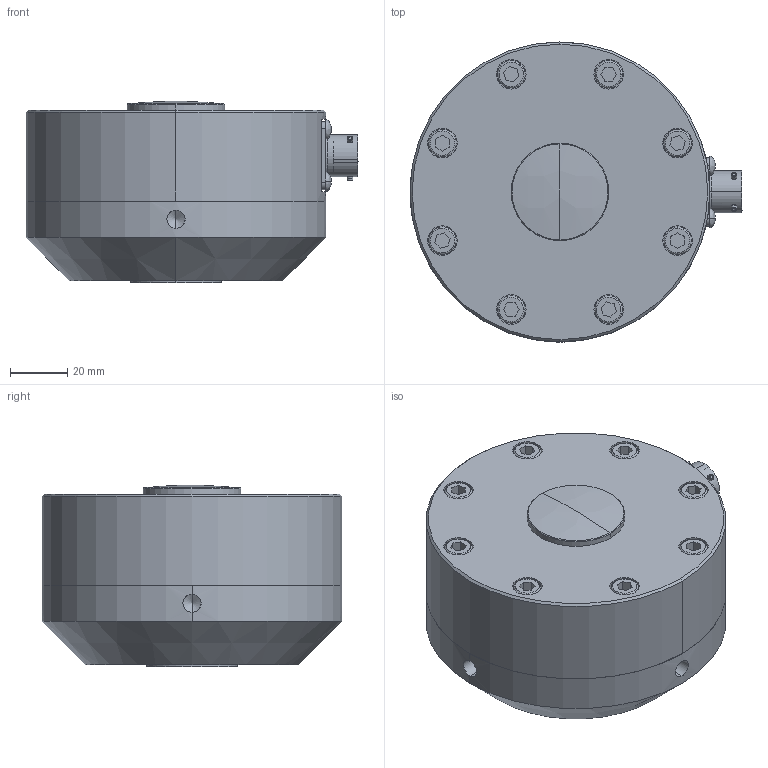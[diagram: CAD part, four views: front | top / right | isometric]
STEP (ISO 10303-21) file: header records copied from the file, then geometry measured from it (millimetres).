
FILE_DESCRIPTION (( 'STEP AP203' ), '1' );
FILE_NAME ('Interface 1211-5KN thru -50KN-B.STEP', '2011-06-06T22:34:30', ( ' ' ), ( '' ), 'SwSTEP 2.0', 'SolidWorks 2002349', '' );
FILE_SCHEMA (( 'CONFIG_CONTROL_DESIGN' ));
Length unit declared in the file: inch
Products named in the file (1): Interface 1211-5KN thru -50KN-B
Bounding box: 115.95 x 104.75 x 63.49 mm (x, y, z)
Volume: 476624.3 mm3; surface area: 40838.5 mm2
Topology: 1 solids, 1 shells, 325 faces, 770 edges, 494 vertices
Faces by surface type: plane 148, cylinder 108, bspline 43, cone 26
Entity records: 10607 total; most frequent: CARTESIAN_POINT 3360, ORIENTED_EDGE 1524, DIRECTION 1432, EDGE_CURVE 762, AXIS2_PLACEMENT_3D 530, VERTEX_POINT 494, EDGE_LOOP 380, VECTOR 372
